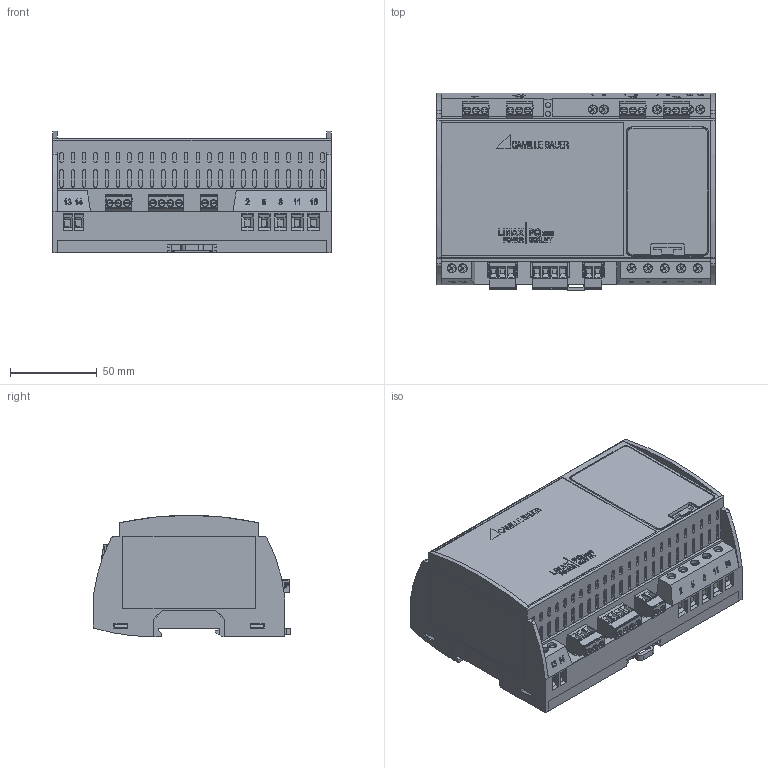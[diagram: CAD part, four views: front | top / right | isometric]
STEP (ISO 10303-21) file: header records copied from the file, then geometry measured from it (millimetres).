
FILE_DESCRIPTION (( 'STEP AP214' ), '1' );
FILE_NAME ('PQ5000 Blindfolie.STEP', '2017-01-27T06:48:57', ( 'inst' ), ( '' ), 'SwSTEP 2.0', 'SolidWorks 2016', '' );
FILE_SCHEMA (( 'AUTOMOTIVE_DESIGN' ));
Length unit declared in the file: millimetre
Products named in the file (1): PQ5000 Blindfolie
Bounding box: 160 x 113.4 x 69.81 mm (x, y, z)
Surface area: 212252.5 mm2 (no closed solid volume)
Topology: 0 solids, 70 shells, 7112 faces, 18761 edges, 12214 vertices
Faces by surface type: plane 5506, cylinder 1067, bspline 404, cone 118, torus 12, sphere 5
Full cylindrical faces by diameter (mm): 0.406 x1, 0.457 x6, 0.813 x12, 0.889 x2, 0.965 x2, 1.219 x2, 1.397 x2, 1.5 x21, 2 x2, 2.6 x15, 2.92 x1, 3 x1, 3.7 x21, 3.85 x21, 4 x21, 4.7 x15, 5 x15, 5.2 x15
Entity records: 313650 total; most frequent: CARTESIAN_POINT 63489, ORIENTED_EDGE 36658, DIRECTION 32201, EDGE_CURVE 18344, LINE 14825, VECTOR 14825, VERTEX_POINT 12075, AXIS2_PLACEMENT_3D 8688
